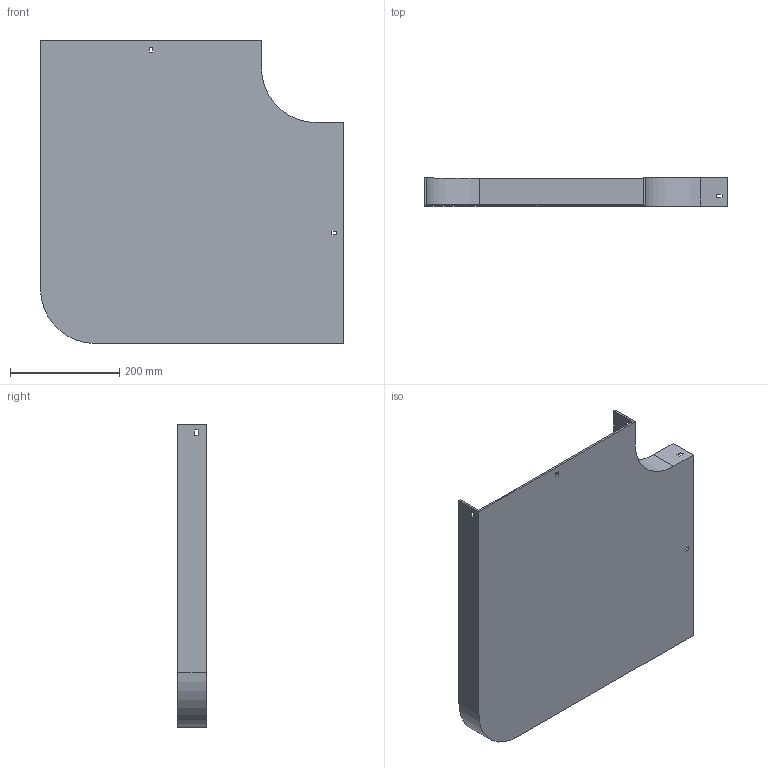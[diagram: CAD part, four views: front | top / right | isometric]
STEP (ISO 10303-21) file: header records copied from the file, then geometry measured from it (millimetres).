
FILE_DESCRIPTION (( 'STEP AP214' ), '1' );
FILE_NAME ('10B1B400.step', '2025-02-21T09:40:41', ( '' ), ( '' ), 'SwSTEP 2.0', 'SolidWorks 2023', '' );
FILE_SCHEMA (( 'AUTOMOTIVE_DESIGN' ));
Length unit declared in the file: millimetre
Products named in the file (1): 10B1B400
Bounding box: 554 x 52 x 554 mm (x, y, z)
Volume: 1218503 mm3; surface area: 705115 mm2
Topology: 1 solids, 1 shells, 42 faces, 120 edges, 80 vertices
Faces by surface type: plane 38, cylinder 4
Entity records: 1399 total; most frequent: CARTESIAN_POINT 243, ORIENTED_EDGE 240, DIRECTION 214, EDGE_CURVE 120, VECTOR 112, LINE 112, VERTEX_POINT 80, EDGE_LOOP 54
